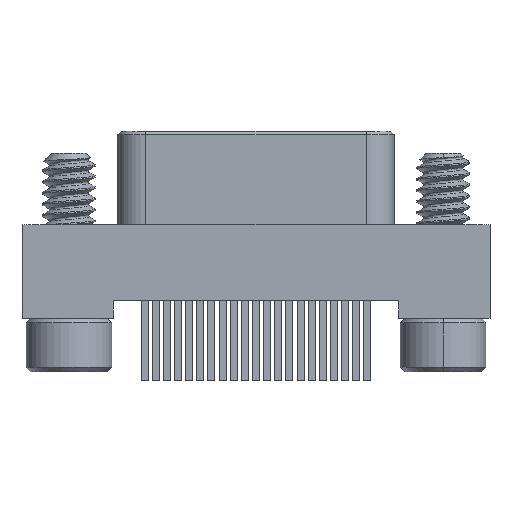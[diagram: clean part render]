
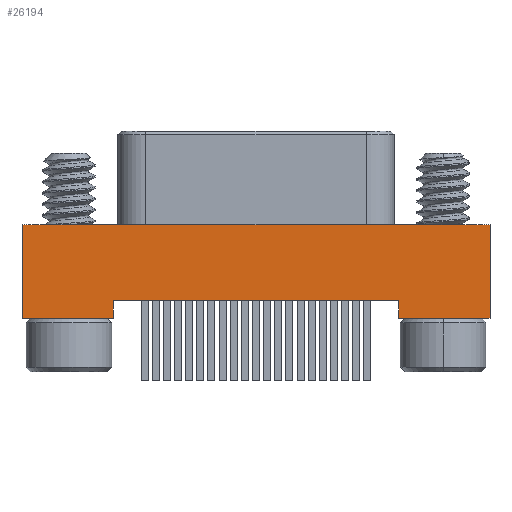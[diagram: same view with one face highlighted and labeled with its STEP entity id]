
A CAD part, front view. The second image highlights one B-rep face of the part: STEP entity #26194.
In plain terms, the highlighted planar face has unit normal (0, -1, 0).
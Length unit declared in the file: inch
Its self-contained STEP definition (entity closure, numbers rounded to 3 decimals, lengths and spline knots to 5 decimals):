
#868 = VECTOR ( 'NONE', #20110, 39.37008 ) ;
#896 = LINE ( 'NONE', #31359, #24643 ) ;
#1267 = CARTESIAN_POINT ( 'NONE',  ( 0.2625, -0.0575, 0. ) ) ;
#3906 = LINE ( 'NONE', #9722, #4895 ) ;
#4852 = CARTESIAN_POINT ( 'NONE',  ( -0.16, -0.0575, -0.085 ) ) ;
#4895 = VECTOR ( 'NONE', #32159, 39.37008 ) ;
#5327 = VERTEX_POINT ( 'NONE', #1267 ) ;
#5671 = CARTESIAN_POINT ( 'NONE',  ( -0.2625, -0.0575, -0.105 ) ) ;
#5674 = AXIS2_PLACEMENT_3D ( 'NONE', #14261, #16781, #24586 ) ;
#5783 = EDGE_CURVE ( 'NONE', #22961, #24832, #3906, .T. ) ;
#5816 = CARTESIAN_POINT ( 'NONE',  ( -0.2625, -0.0575, 0.105 ) ) ;
#6171 = CARTESIAN_POINT ( 'NONE',  ( -0.2625, -0.0575, 0. ) ) ;
#6419 = CARTESIAN_POINT ( 'NONE',  ( 0.2625, -0.0575, 0.105 ) ) ;
#6432 = PLANE ( 'NONE',  #5674 ) ;
#7610 = CARTESIAN_POINT ( 'NONE',  ( -0.16, -0.0575, -0.105 ) ) ;
#9609 = VECTOR ( 'NONE', #15665, 39.37008 ) ;
#9722 = CARTESIAN_POINT ( 'NONE',  ( -0.2625, -0.0575, -0.105 ) ) ;
#9724 = DIRECTION ( 'NONE',  ( 0., 0., -1. ) ) ;
#9978 = LINE ( 'NONE', #27436, #868 ) ;
#11157 = CARTESIAN_POINT ( 'NONE',  ( 0.16, -0.0575, -0.105 ) ) ;
#11757 = CARTESIAN_POINT ( 'NONE',  ( 0.16, -0.0575, -0.085 ) ) ;
#11923 = VECTOR ( 'NONE', #9724, 39.37008 ) ;
#12374 = VECTOR ( 'NONE', #28943, 39.37008 ) ;
#13013 = EDGE_LOOP ( 'NONE', ( #20991, #21649, #27864, #23658, #17866, #24194, #14473, #15297 ) ) ;
#13654 = LINE ( 'NONE', #5671, #9609 ) ;
#13706 = EDGE_CURVE ( 'NONE', #31595, #31132, #13654, .T. ) ;
#14041 = EDGE_CURVE ( 'NONE', #5327, #24832, #29236, .T. ) ;
#14261 = CARTESIAN_POINT ( 'NONE',  ( -0.2625, -0.0575, 0.105 ) ) ;
#14473 = ORIENTED_EDGE ( 'NONE', *, *, #13706, .T. ) ;
#15297 = ORIENTED_EDGE ( 'NONE', *, *, #15521, .F. ) ;
#15521 = EDGE_CURVE ( 'NONE', #29854, #31132, #9978, .T. ) ;
#15665 = DIRECTION ( 'NONE',  ( 1., 0., 0. ) ) ;
#16284 = DIRECTION ( 'NONE',  ( 0., 0., -1. ) ) ;
#16781 = DIRECTION ( 'NONE',  ( 0., 1., 0. ) ) ;
#17866 = ORIENTED_EDGE ( 'NONE', *, *, #31590, .F. ) ;
#18715 = DIRECTION ( 'NONE',  ( 1., 0., 0. ) ) ;
#19045 = DIRECTION ( 'NONE',  ( -1., 0., 0. ) ) ;
#19594 = VERTEX_POINT ( 'NONE', #30528 ) ;
#20085 = EDGE_CURVE ( 'NONE', #22834, #31595, #28460, .T. ) ;
#20110 = DIRECTION ( 'NONE',  ( 0., 0., -1. ) ) ;
#20360 = VECTOR ( 'NONE', #19045, 39.37008 ) ;
#20453 = EDGE_CURVE ( 'NONE', #19594, #29854, #29712, .T. ) ;
#20991 = ORIENTED_EDGE ( 'NONE', *, *, #20453, .F. ) ;
#21649 = ORIENTED_EDGE ( 'NONE', *, *, #31985, .T. ) ;
#22834 = VERTEX_POINT ( 'NONE', #6171 ) ;
#22961 = VERTEX_POINT ( 'NONE', #11157 ) ;
#23379 = CARTESIAN_POINT ( 'NONE',  ( -0.2625, -0.0575, -0.105 ) ) ;
#23658 = ORIENTED_EDGE ( 'NONE', *, *, #14041, .F. ) ;
#23670 = CARTESIAN_POINT ( 'NONE',  ( 0.2625, -0.0575, -0.105 ) ) ;
#24194 = ORIENTED_EDGE ( 'NONE', *, *, #20085, .T. ) ;
#24586 = DIRECTION ( 'NONE',  ( 0., 0., 1. ) ) ;
#24643 = VECTOR ( 'NONE', #18715, 39.37008 ) ;
#24832 = VERTEX_POINT ( 'NONE', #23670 ) ;
#24873 = LINE ( 'NONE', #29363, #11923 ) ;
#26194 = ADVANCED_FACE ( 'NONE', ( #29094 ), #6432, .F. ) ;
#27436 = CARTESIAN_POINT ( 'NONE',  ( -0.16, -0.0575, -0.085 ) ) ;
#27864 = ORIENTED_EDGE ( 'NONE', *, *, #5783, .T. ) ;
#28460 = LINE ( 'NONE', #5816, #12374 ) ;
#28943 = DIRECTION ( 'NONE',  ( 0., 0., -1. ) ) ;
#29094 = FACE_OUTER_BOUND ( 'NONE', #13013, .T. ) ;
#29236 = LINE ( 'NONE', #6419, #31946 ) ;
#29363 = CARTESIAN_POINT ( 'NONE',  ( 0.16, -0.0575, -0.085 ) ) ;
#29712 = LINE ( 'NONE', #11757, #20360 ) ;
#29854 = VERTEX_POINT ( 'NONE', #4852 ) ;
#30528 = CARTESIAN_POINT ( 'NONE',  ( 0.16, -0.0575, -0.085 ) ) ;
#31132 = VERTEX_POINT ( 'NONE', #7610 ) ;
#31359 = CARTESIAN_POINT ( 'NONE',  ( -0.2625, -0.0575, 0. ) ) ;
#31590 = EDGE_CURVE ( 'NONE', #22834, #5327, #896, .T. ) ;
#31595 = VERTEX_POINT ( 'NONE', #23379 ) ;
#31946 = VECTOR ( 'NONE', #16284, 39.37008 ) ;
#31985 = EDGE_CURVE ( 'NONE', #19594, #22961, #24873, .T. ) ;
#32159 = DIRECTION ( 'NONE',  ( 1., 0., 0. ) ) ;
